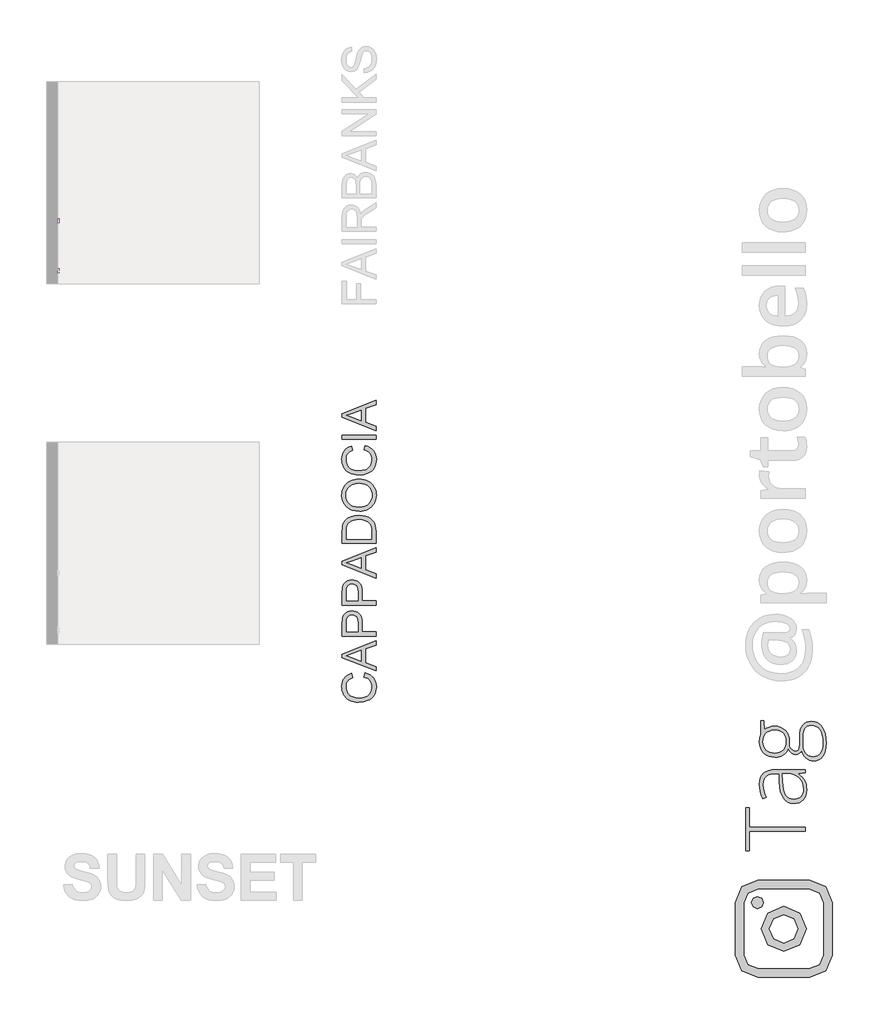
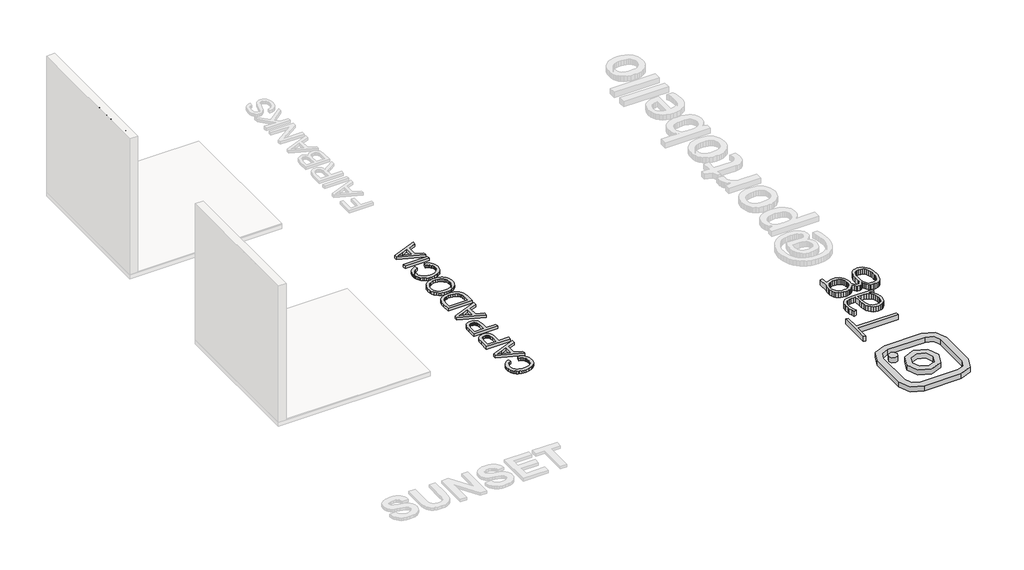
# One storey, part 2 of 7: 5 proxies.
"""IFC4 building model written with IfcOpenShell, lengths in millimetres."""

from ifc_helpers import new_model, si_unit, frame, origin, origin_with_axes, place, context, project, spatial, polyline, outline, extrude, transform, mapped, element, save
from components import generic_models_d67f6705

model = new_model("IFC4")

# Units and contexts
model_context = context("Model", 3, world=origin())
ifc_project = project(units=[si_unit("LENGTHUNIT", "METRE", prefix="MILLI")], contexts=[model_context])

# Site, building, storey
site = spatial("IfcSite", under=ifc_project)
building = spatial("IfcBuilding", under=site)
storey = spatial("IfcBuildingStorey", under=building, Name="PORTOBELLO - SHOWROOM", Elevation=0.0)

# Proxies
placement = place(None, origin())
generic_models_shape = generic_models_d67f6705(model_context)
element("IfcBuildingElementProxy", 1, Name="Blks_Instagram1 : Único 2", ObjectType="Blks_Instagram1 : Único 2", at=placement, inside=storey, context=model_context, shape_type="MappedRepresentation", body=[
    mapped(generic_models_shape, transform((55013.1324814, -13201.2406298, 0.0), x_axis=(-1.0, 0.0, 0.0), y_axis=(0.0, -1.0, 0.0), z_axis=(0.0, 0.0, 1.0))),
])
element("IfcBuildingElementProxy", 2, Name="10mm Arial", ObjectType="10mm Arial", at=placement, inside=storey, context=model_context, shape_type="SweptSolid", body=[
    extrude(outline(polyline([(-4427.1366807, 2478.0448381), (-4427.1366807, 2578.5011483), (-4359.6425973, 2578.5011483), (-4359.6425973, 2565.9441095), (-4414.579642, 2565.9441095), (-4414.579642, 2536.1211424), (-4367.4907466, 2536.1211424), (-4367.4907466, 2523.5641036), (-4414.579642, 2523.5641036), (-4414.579642, 2478.0448381), (-4427.1366807, 2478.0448381)])), frame((45290.81561, 0.0, 0.0), z_axis=(1.0, 0.0, 0.0), x_axis=(0.0, 1.0, 0.0)), (0.0, 0.0, 1.0), 20.0),
    extrude(outline(polyline([(-4296.8574035, 2487.4626172), (-4309.0342975, 2478.9522804), (-4322.4865158, 2476.4752083), (-4332.9803497, 2477.9651303), (-4340.7212001, 2482.4348966), (-4345.4944689, 2489.2223194), (-4347.0855586, 2497.6652112), (-4344.6820629, 2507.598025), (-4338.3667553, 2514.8085122), (-4329.5743756, 2518.9287905), (-4318.709594, 2520.8172514), (-4296.9309799, 2525.1337335), (-4296.8574035, 2527.9296366), (-4300.3154943, 2537.2002629), (-4314.1969082, 2540.8300319), (-4326.9010998, 2538.4142735), (-4332.95889, 2529.842623), (-4345.5159287, 2531.4122529), (-4340.0835379, 2543.674986), (-4329.1451799, 2550.8609477), (-4312.5782274, 2553.3870707), (-4297.3601756, 2551.1552533), (-4288.7639996, 2545.5511842), (-4284.9135014, 2537.0285847), (-4284.3003647, 2526.0411757), (-4284.3003647, 2510.4184537), (-4283.6627026, 2488.6030514), (-4281.161105, 2478.0448381), (-4293.7181438, 2478.0448381), (-4296.8574035, 2487.4626172)]), holes=[polyline([(-4296.8574035, 2512.5766947), (-4317.1154387, 2508.7261965), (-4327.9189066, 2506.6905828), (-4332.8117372, 2503.3796448), (-4334.5285198, 2498.548128), (-4330.7883862, 2491.7545738), (-4319.81324, 2489.032247), (-4307.1090484, 2492.0366167), (-4298.9175427, 2499.3084174), (-4296.9309799, 2509.0205021), (-4296.8574035, 2512.5766947)])]), frame((45290.81561, 0.0, 0.0), z_axis=(1.0, 0.0, 0.0), x_axis=(0.0, 1.0, 0.0)), (0.0, 0.0, 1.0), 20.0),
    extrude(outline(polyline([(45310.81561, -4254.4773977), (45310.81561, -4267.0344364), (45290.81561, -4267.0344364), (45290.81561, -4254.4773977), (45310.81561, -4254.4773977)])), frame((0.0, 0.0, 2565.9441095), z_axis=(0.0, 0.0, 1.0), x_axis=(1.0, 0.0, 0.0)), (0.0, 0.0, 1.0), 12.5570388),
    extrude(outline(polyline([(45310.81561, -4254.4773977), (45310.81561, -4267.0344364), (45290.81561, -4267.0344364), (45290.81561, -4254.4773977), (45310.81561, -4254.4773977)])), frame((0.0, 0.0, 2478.0448381), z_axis=(0.0, 0.0, 1.0), x_axis=(1.0, 0.0, 0.0)), (0.0, 0.0, 1.0), 73.7726028),
    extrude(outline(polyline([(-4235.6418395, 2478.0448381), (-4235.6418395, 2551.8174409), (-4224.6544306, 2551.8174409), (-4224.6544306, 2540.9036083), (-4216.8553323, 2550.9590495), (-4209.0071831, 2553.3870707), (-4196.4010933, 2549.512047), (-4200.5949481, 2538.254858), (-4209.424116, 2540.8300319), (-4216.5242385, 2538.3529598), (-4221.049187, 2531.4858293), (-4223.0848007, 2516.8196004), (-4223.0848007, 2478.0448381), (-4235.6418395, 2478.0448381)])), frame((45290.81561, 0.0, 0.0), z_axis=(1.0, 0.0, 0.0), x_axis=(0.0, 1.0, 0.0)), (0.0, 0.0, 1.0), 20.0),
    extrude(outline(polyline([(-4175.9959054, 2478.0448381), (-4188.5529441, 2478.0448381), (-4188.5529441, 2578.5011483), (-4175.9959054, 2578.5011483), (-4175.9959054, 2541.2469649), (-4167.2035257, 2550.3520443), (-4156.2774304, 2553.3870707), (-4143.6958662, 2550.6524812), (-4133.9347306, 2542.9637475), (-4127.938254, 2531.0075827), (-4125.7677503, 2516.0347855), (-4128.0148961, 2499.2716292), (-4134.7563337, 2486.8004296), (-4144.6492937, 2479.0565136), (-4156.3510068, 2476.4752083), (-4167.5162254, 2479.8045403), (-4175.9959054, 2489.7925365), (-4175.9959054, 2478.0448381)]), holes=[polyline([(-4175.9959054, 2515.4461743), (-4172.5623401, 2497.8859404), (-4165.9833837, 2491.2456704), (-4157.4301273, 2489.032247), (-4150.182852, 2490.6631905), (-4143.9901718, 2495.5560211), (-4139.7411347, 2503.6800818), (-4138.324789, 2515.0047159), (-4139.6828867, 2526.4948969), (-4143.7571798, 2534.5269871), (-4149.756722, 2539.2542707), (-4156.8905671, 2540.8300319), (-4164.1378424, 2539.1990884), (-4170.3305226, 2534.3062579), (-4174.5795597, 2526.32935), (-4175.9959054, 2515.4461743)])]), frame((45290.81561, 0.0, 0.0), z_axis=(1.0, 0.0, 0.0), x_axis=(0.0, 1.0, 0.0)), (0.0, 0.0, 1.0), 20.0),
    extrude(outline(polyline([(-4064.5521863, 2487.4626172), (-4076.7290803, 2478.9522804), (-4090.1812986, 2476.4752083), (-4100.6751325, 2477.9651303), (-4108.4159828, 2482.4348966), (-4113.1892517, 2489.2223194), (-4114.7803414, 2497.6652112), (-4112.3768457, 2507.598025), (-4106.0615381, 2514.8085122), (-4097.2691584, 2518.9287905), (-4086.4043768, 2520.8172514), (-4064.6257627, 2525.1337335), (-4064.5521863, 2527.9296366), (-4068.010277, 2537.2002629), (-4081.891691, 2540.8300319), (-4094.5958826, 2538.4142735), (-4100.6536727, 2529.842623), (-4113.2107115, 2531.4122529), (-4107.7783207, 2543.674986), (-4096.8399627, 2550.8609477), (-4080.2730102, 2553.3870707), (-4065.0549583, 2551.1552533), (-4056.4587824, 2545.5511842), (-4052.6082842, 2537.0285847), (-4051.9951475, 2526.0411757), (-4051.9951475, 2510.4184537), (-4051.3574854, 2488.6030514), (-4048.8558878, 2478.0448381), (-4061.4129266, 2478.0448381), (-4064.5521863, 2487.4626172)]), holes=[polyline([(-4064.5521863, 2512.5766947), (-4084.8102215, 2508.7261965), (-4095.6136894, 2506.6905828), (-4100.5065199, 2503.3796448), (-4102.2233026, 2498.548128), (-4098.483169, 2491.7545738), (-4087.5080228, 2489.032247), (-4074.8038312, 2492.0366167), (-4066.6123255, 2499.3084174), (-4064.6257627, 2509.0205021), (-4064.5521863, 2512.5766947)])]), frame((45290.81561, 0.0, 0.0), z_axis=(1.0, 0.0, 0.0), x_axis=(0.0, 1.0, 0.0)), (0.0, 0.0, 1.0), 20.0),
    extrude(outline(polyline([(-4034.7292192, 2478.0448381), (-4034.7292192, 2551.8174409), (-4022.1721804, 2551.8174409), (-4022.1721804, 2541.516745), (-4012.5704604, 2550.4194893), (-3999.4615986, 2553.3870707), (-3987.6035356, 2550.9958377), (-3979.5101317, 2544.7173184), (-3975.7454726, 2535.4834803), (-3975.0832851, 2523.3433744), (-3975.0832851, 2478.0448381), (-3987.6403238, 2478.0448381), (-3987.6403238, 2521.6511173), (-3989.0873263, 2532.7611535), (-3994.2008861, 2538.6350027), (-4002.8215875, 2540.8300319), (-4016.445484, 2535.9004132), (-4020.7405063, 2528.7573711), (-4022.1721804, 2517.1874824), (-4022.1721804, 2478.0448381), (-4034.7292192, 2478.0448381)])), frame((45290.81561, 0.0, 0.0), z_axis=(1.0, 0.0, 0.0), x_axis=(0.0, 1.0, 0.0)), (0.0, 0.0, 1.0), 20.0),
    extrude(outline(polyline([(-3957.8173567, 2478.0448381), (-3957.8173567, 2578.5011483), (-3945.260318, 2578.5011483), (-3945.260318, 2524.5205968), (-3917.1050826, 2551.8174409), (-3899.7410524, 2551.8174409), (-3928.2396443, 2524.1772403), (-3898.1714226, 2478.0448381), (-3912.8376515, 2478.0448381), (-3937.2404905, 2515.4461743), (-3945.260318, 2507.6716014), (-3945.260318, 2478.0448381), (-3957.8173567, 2478.0448381)])), frame((45290.81561, 0.0, 0.0), z_axis=(1.0, 0.0, 0.0), x_axis=(0.0, 1.0, 0.0)), (0.0, 0.0, 1.0), 20.0),
    extrude(outline(polyline([(-3891.8929032, 2500.0196559), (-3879.3358644, 2501.5892858), (-3873.5233289, 2492.2696086), (-3860.2060007, 2489.032247), (-3847.4037073, 2491.9998285), (-3843.234378, 2498.9650609), (-3847.4282327, 2504.6059182), (-3860.3531535, 2508.1866362), (-3879.262288, 2514.3302656), (-3887.5151075, 2521.5039645), (-3890.3232734, 2531.6329821), (-3888.0669305, 2540.9894475), (-3881.9110384, 2548.1386209), (-3873.9279991, 2551.8542291), (-3863.1245312, 2553.3870707), (-3847.8451657, 2550.9222613), (-3838.133081, 2544.2513345), (-3833.8165989, 2532.9818827), (-3846.3736377, 2531.4122529), (-3851.0947899, 2538.3406971), (-3862.1435125, 2540.8300319), (-3874.160991, 2538.4510617), (-3877.7662346, 2532.9083063), (-3876.2701811, 2529.2540118), (-3871.5858171, 2526.4826341), (-3860.7700864, 2523.8093583), (-3842.3391985, 2517.8987209), (-3833.7798107, 2511.2032686), (-3830.6773392, 2500.2894361), (-3834.319371, 2488.2719576), (-3844.8285333, 2479.5531543), (-3860.377679, 2476.4752083), (-3873.038951, 2477.958999), (-3882.2789204, 2482.4103711), (-3888.4470752, 2489.7802737), (-3891.8929032, 2500.0196559)])), frame((45290.81561, 0.0, 0.0), z_axis=(1.0, 0.0, 0.0), x_axis=(0.0, 1.0, 0.0)), (0.0, 0.0, 1.0), 20.0),
])
element("IfcBuildingElementProxy", 3, Name="10mm Arial Narrow", ObjectType="10mm Arial Narrow", at=placement, inside=storey, context=model_context, shape_type="SweptSolid", body=[
    extrude(outline(polyline([(-3755.0016216, 2478.0448381), (-3755.0016216, 2578.7634419), (-3723.7047369, 2578.7634419), (-3707.4090354, 2576.8851211), (-3695.9360493, 2567.4046779), (-3691.6463709, 2550.3855691), (-3693.4326793, 2538.3097436), (-3698.7916045, 2528.6833498), (-3708.5353933, 2522.3820914), (-3723.4762925, 2520.2816719), (-3745.2546599, 2520.2816719), (-3745.2546599, 2478.0448381), (-3755.0016216, 2478.0448381)]), holes=[polyline([(-3745.2546599, 2531.6531272), (-3722.283305, 2531.6531272), (-3706.4191096, 2536.1839414), (-3701.3933325, 2549.8525322), (-3703.868147, 2560.0183086), (-3709.8457758, 2565.8182584), (-3722.5117494, 2567.3919866), (-3745.2546599, 2567.3919866), (-3745.2546599, 2531.6531272)])]), frame((45290.81561, 0.0, 0.0), z_axis=(1.0, 0.0, 0.0), x_axis=(0.0, 1.0, 0.0)), (0.0, 0.0, 1.0), 20.0),
    extrude(outline(polyline([(-3683.5239028, 2514.5959443), (-3681.5694339, 2531.1867199), (-3675.7060273, 2543.1388047), (-3666.8474606, 2550.3633593), (-3655.9075115, 2552.7715441), (-3645.0944759, 2550.3633593), (-3636.2105265, 2543.1388047), (-3630.2709717, 2531.3770902), (-3628.2911201, 2515.3574257), (-3630.2360705, 2498.1955391), (-3636.0709215, 2486.0530839), (-3644.9199697, 2478.8285294), (-3655.9075115, 2476.4203445), (-3666.7681396, 2478.834875), (-3675.6425705, 2486.0784667), (-3681.5535697, 2498.0368971), (-3683.5239028, 2514.5959443)]), holes=[polyline([(-3673.7769412, 2514.621327), (-3672.4729043, 2502.0695756), (-3668.5607937, 2493.1983175), (-3662.719597, 2487.925059), (-3655.6283016, 2486.1673061), (-3648.9082284, 2487.9409232), (-3643.2161551, 2493.2617743), (-3639.3326001, 2502.1488966), (-3638.0380818, 2514.621327), (-3639.3421186, 2527.1350043), (-3643.2542292, 2535.9935711), (-3649.095426, 2541.2668296), (-3656.1867213, 2543.0245825), (-3662.9543871, 2541.2573111), (-3668.6369418, 2535.955497), (-3672.4919413, 2527.0874118), (-3673.7769412, 2514.621327)])]), frame((45290.81561, 0.0, 0.0), z_axis=(1.0, 0.0, 0.0), x_axis=(0.0, 1.0, 0.0)), (0.0, 0.0, 1.0), 20.0),
    extrude(outline(polyline([(-3556.8134013, 2486.1673061), (-3555.1889077, 2476.4203445), (-3562.5498944, 2476.4203445), (-3570.8246587, 2478.539801), (-3575.1397198, 2484.3397508), (-3576.3073246, 2498.985576), (-3576.3073246, 2541.4000889), (-3584.4297927, 2541.4000889), (-3584.4297927, 2544.6490761), (-3586.0542863, 2539.7755952), (-3593.6183346, 2541.4000889), (-3599.6974943, 2539.0775706), (-3603.568358, 2532.5922876), (-3605.5482096, 2517.184981), (-3605.5482096, 2478.0448381), (-3615.2951712, 2478.0448381), (-3615.2951712, 2551.1470505), (-3605.5482096, 2551.1470505), (-3605.5482096, 2541.4508543), (-3599.3040623, 2550.5378654), (-3592.9076187, 2552.7715441), (-3584.4297927, 2551.1470505), (-3576.3073246, 2551.1470505), (-3576.3073246, 2567.3919866), (-3566.560363, 2575.5144546), (-3566.560363, 2551.1470505), (-3556.8134013, 2551.1470505), (-3556.8134013, 2541.4000889), (-3566.560363, 2541.4000889), (-3566.560363, 2496.7518973), (-3565.6973507, 2488.7563428), (-3561.077697, 2486.1673061), (-3556.8134013, 2486.1673061)])), frame((45290.81561, 0.0, 0.0), z_axis=(1.0, 0.0, 0.0), x_axis=(0.0, 1.0, 0.0)), (0.0, 0.0, 1.0), 20.0),
    extrude(outline(polyline([(-3550.3154269, 2514.5959443), (-3548.360958, 2531.1867199), (-3542.4975514, 2543.1388047), (-3533.6389847, 2550.3633593), (-3522.6990355, 2552.7715441), (-3511.8859999, 2550.3633593), (-3503.0020505, 2543.1388047), (-3497.0624958, 2531.3770902), (-3495.0826442, 2515.3574257), (-3497.0275945, 2498.1955391), (-3502.8624456, 2486.0530839), (-3511.7114938, 2478.8285294), (-3522.6990355, 2476.4203445), (-3533.5596637, 2478.834875), (-3542.4340946, 2486.0784667), (-3548.3450938, 2498.0368971), (-3550.3154269, 2514.5959443)]), holes=[polyline([(-3540.5684652, 2514.621327), (-3539.2644284, 2502.0695756), (-3535.3523178, 2493.1983175), (-3529.511121, 2487.925059), (-3522.4198257, 2486.1673061), (-3515.6997525, 2487.9409232), (-3510.0076792, 2493.2617743), (-3506.1241242, 2502.1488966), (-3504.8296058, 2514.621327), (-3506.1336427, 2527.1350043), (-3510.0457533, 2535.9935711), (-3515.88695, 2541.2668296), (-3522.9782454, 2543.0245825), (-3529.7459111, 2541.2573111), (-3535.4284659, 2535.955497), (-3539.2834654, 2527.0874118), (-3540.5684652, 2514.621327)])]), frame((45290.81561, 0.0, 0.0), z_axis=(1.0, 0.0, 0.0), x_axis=(0.0, 1.0, 0.0)), (0.0, 0.0, 1.0), 20.0),
    extrude(outline(polyline([(-3472.3397337, 2478.0448381), (-3482.0866953, 2478.0448381), (-3482.0866953, 2578.7634419), (-3472.3397337, 2578.7634419), (-3472.3397337, 2543.3545577), (-3464.9406729, 2550.4363345), (-3455.7394396, 2552.7715441), (-3442.8577129, 2548.5707052), (-3433.5803315, 2535.8412748), (-3430.1028998, 2515.154364), (-3432.0351588, 2498.7000205), (-3437.8319358, 2486.4972814), (-3446.2050581, 2478.9395787), (-3455.8663531, 2476.4203445), (-3465.2071914, 2479.0347639), (-3472.3397337, 2486.801874), (-3472.3397337, 2478.0448381)]), holes=[polyline([(-3472.3397337, 2515.154364), (-3470.2583512, 2497.9068107), (-3464.3695619, 2489.1751576), (-3455.9171186, 2486.1673061), (-3449.974391, 2487.9567874), (-3444.7360337, 2493.3252311), (-3439.8498615, 2514.7482406), (-3444.5583547, 2536.1839414), (-3449.8030577, 2541.3144222), (-3456.1201803, 2543.0245825), (-3462.0978091, 2541.2351012), (-3467.3901047, 2535.8666575), (-3472.3397337, 2515.154364)])]), frame((45290.81561, 0.0, 0.0), z_axis=(1.0, 0.0, 0.0), x_axis=(0.0, 1.0, 0.0)), (0.0, 0.0, 1.0), 20.0),
    extrude(outline(polyline([(-3378.1191043, 2500.7877486), (-3368.3721427, 2499.163255), (-3372.071673, 2489.2766884), (-3377.8906599, 2482.1568376), (-3385.5943132, 2477.8544678), (-3394.9478428, 2476.4203445), (-3406.5413968, 2478.834875), (-3415.685519, 2486.0784667), (-3421.6250738, 2497.8846009), (-3423.6049254, 2513.9867592), (-3421.6155553, 2530.6536829), (-3415.647445, 2542.8342121), (-3406.6334091, 2550.2872111), (-3395.5062625, 2552.7715441), (-3384.8233133, 2550.3728778), (-3376.075796, 2543.1768787), (-3370.2409449, 2531.4373741), (-3368.2959945, 2515.4081911), (-3368.3721427, 2512.1592039), (-3413.8579637, 2512.1592039), (-3407.8549522, 2492.716046), (-3401.924916, 2487.8044911), (-3394.8209293, 2486.1673061), (-3384.6424615, 2489.8224168), (-3378.1191043, 2500.7877486)]), holes=[polyline([(-3413.1980132, 2521.9061655), (-3378.1191043, 2521.9061655), (-3382.3834001, 2536.17125), (-3388.2087326, 2541.3112494), (-3395.4301144, 2543.0245825), (-3407.6391991, 2537.3134721), (-3413.1980132, 2521.9061655)])]), frame((45290.81561, 0.0, 0.0), z_axis=(1.0, 0.0, 0.0), x_axis=(0.0, 1.0, 0.0)), (0.0, 0.0, 1.0), 20.0),
    extrude(outline(polyline([(45310.81561, -3345.6292322), (45310.81561, -3355.3761938), (45290.81561, -3355.3761938), (45290.81561, -3345.6292322), (45310.81561, -3345.6292322)])), frame((0.0, 0.0, 2478.0448381), z_axis=(0.0, 0.0, 1.0), x_axis=(1.0, 0.0, 0.0)), (0.0, 0.0, 1.0), 100.7186038),
    extrude(outline(polyline([(45310.81561, -3319.6373344), (45310.81561, -3329.3842961), (45290.81561, -3329.3842961), (45290.81561, -3319.6373344), (45310.81561, -3319.6373344)])), frame((0.0, 0.0, 2478.0448381), z_axis=(0.0, 0.0, 1.0), x_axis=(1.0, 0.0, 0.0)), (0.0, 0.0, 1.0), 100.7186038),
    extrude(outline(polyline([(-3308.2658792, 2514.5959443), (-3306.3114103, 2531.1867199), (-3300.4480037, 2543.1388047), (-3291.5894369, 2550.3633593), (-3280.6494878, 2552.7715441), (-3269.8364522, 2550.3633593), (-3260.9525028, 2543.1388047), (-3255.012948, 2531.3770902), (-3253.0330964, 2515.3574257), (-3254.9780468, 2498.1955391), (-3260.8128979, 2486.0530839), (-3269.6619461, 2478.8285294), (-3280.6494878, 2476.4203445), (-3291.510116, 2478.834875), (-3300.3845469, 2486.0784667), (-3306.2955461, 2498.0368971), (-3308.2658792, 2514.5959443)]), holes=[polyline([(-3298.5189175, 2514.621327), (-3297.2148806, 2502.0695756), (-3293.30277, 2493.1983175), (-3287.4615733, 2487.925059), (-3280.370278, 2486.1673061), (-3273.6502048, 2487.9409232), (-3267.9581315, 2493.2617743), (-3264.0745764, 2502.1488966), (-3262.7800581, 2514.621327), (-3264.084095, 2527.1350043), (-3267.9962055, 2535.9935711), (-3273.8374023, 2541.2668296), (-3280.9286976, 2543.0245825), (-3287.6963634, 2541.2573111), (-3293.3789182, 2535.955497), (-3297.2339177, 2527.0874118), (-3298.5189175, 2514.621327)])]), frame((45290.81561, 0.0, 0.0), z_axis=(1.0, 0.0, 0.0), x_axis=(0.0, 1.0, 0.0)), (0.0, 0.0, 1.0), 20.0),
])
element("IfcBuildingElementProxy", 4, Name="450mm Arial", ObjectType="450mm Arial", at=placement, inside=storey, context=model_context, shape_type="SweptSolid", body=[
    extrude(outline(polyline([(49389.6969357, -9830.2229918), (49404.1878075, -9774.0159739), (49439.1422329, -9785.1379925), (49469.6849013, -9799.9513411), (49495.8158129, -9818.4560197), (49517.5349675, -9840.6520283), (49534.6090842, -9866.0384988), (49546.8048819, -9894.1145629), (49554.1223605, -9924.8802206), (49556.56152, -9958.3354719), (49554.715855, -9992.6106377), (49549.1788599, -10023.5306726), (49539.9505348, -10051.0955767), (49527.0308797, -10075.3053499), (49510.6120084, -10096.4927609), (49490.8860348, -10114.9905783), (49467.8529587, -10130.7988021), (49441.5127803, -10143.9174322), (49383.4669587, -10161.5781822), (49321.3044121, -10167.4650989), (49287.4031822, -10165.8012559), (49255.7387062, -10160.8097269), (49226.3109841, -10152.4905119), (49199.1200158, -10140.843611), (49174.6152106, -10126.1297499), (49153.2459776, -10108.6096547), (49135.0123167, -10088.2833253), (49119.914228, -10065.1507617), (49108.0752132, -10039.9975723), (49099.618774, -10013.6093655), (49094.5449105, -9985.9861411), (49092.8536227, -9957.1278993), (49095.0423481, -9924.9797081), (49101.6085244, -9895.5005269), (49112.5521515, -9868.6903558), (49127.8732295, -9844.5491946), (49147.1669471, -9823.4749935), (49170.0284929, -9805.8657026), (49196.457867, -9791.7213218), (49226.4550694, -9781.0418512), (49239.8481479, -9837.248869), (49198.8592899, -9856.7347004), (49183.1917209, -9869.1534873), (49170.7420586, -9883.3561884), (49161.2564382, -9899.425138), (49154.4809951, -9917.4426709), (49149.0606406, -9959.3234859), (49150.5632452, -9984.5384262), (49155.071059, -10007.5989471), (49162.584082, -10028.5050485), (49173.1023142, -10047.2567306), (49186.1523323, -10063.6172817), (49201.2607128, -10077.34999), (49218.4274558, -10088.4548555), (49237.6525613, -10096.9318783), (49278.7923658, -10107.6765304), (49321.1946327, -10111.2580811), (49373.1202566, -10107.0178544), (49418.0200033, -10094.2971743), (49437.4063472, -10084.6365931), (49454.1785707, -10072.6157563), (49468.3366739, -10058.2346638), (49479.8806568, -10041.4933157), (49495.2360408, -10004.1820654), (49500.3545021, -9963.9342179), (49498.6117552, -9939.4980247), (49493.3835146, -9917.0172759), (49484.6697801, -9896.4919715), (49472.4705519, -9877.9221114), (49456.8407195, -9861.746813), (49437.8351727, -9848.4051936), (49415.4539114, -9837.8972532), (49389.6969357, -9830.2229918)])), origin_with_axes(), (0.0, 0.0, 1.0), 50.0),
    extrude(outline(polyline([(49549.5356427, -9749.0960656), (49099.8794999, -9569.6068582), (49099.8794999, -9521.7430696), (49549.5356427, -9342.2538622), (49549.5356427, -9401.6444807), (49409.0180981, -9453.1309873), (49409.0180981, -9638.3287199), (49549.5356427, -9689.7054472), (49549.5356427, -9749.0960656)]), holes=[polyline([(49352.8110803, -9617.6902055), (49352.8110803, -9473.6597223), (49242.2632932, -9514.1682957), (49156.0865178, -9545.6749639), (49232.602712, -9573.6686935), (49352.8110803, -9617.6902055)])]), origin_with_axes(), (0.0, 0.0, 1.0), 50.0),
    extrude(outline(polyline([(49549.5356427, -9282.2045677), (49099.8794999, -9282.2045677), (49099.8794999, -9115.5595421), (49104.1608939, -9048.3745911), (49112.1610627, -9018.418556), (49125.1836359, -8993.7593736), (49143.8186775, -8973.9030369), (49168.6562513, -8958.3555391), (49197.9536104, -8948.3107302), (49229.968008, -8944.9624606), (49257.5706488, -8947.2232287), (49282.9639804, -8954.0055331), (49306.1480031, -8965.3093736), (49327.1227166, -8981.1347504), (49344.5090183, -9002.8607663), (49356.9278052, -9031.8665241), (49364.3790773, -9068.1520239), (49366.8628347, -9111.7172655), (49366.8628347, -9225.9975499), (49549.5356427, -9225.9975499), (49549.5356427, -9282.2045677)]), holes=[polyline([(49310.6558169, -9225.9975499), (49310.6558169, -9108.4238856), (49305.4961883, -9058.584069), (49299.0466525, -9040.0039171), (49290.0173025, -9025.6502694), (49278.6482805, -9014.9399234), (49265.1797287, -9007.2896762), (49249.6116472, -9002.6995279), (49231.944036, -9001.1694785), (49206.6947897, -9004.778474), (49185.3975994, -9015.6054606), (49169.3698169, -9032.3056414), (49159.9287944, -9053.5342197), (49156.0865178, -9109.7412376), (49156.0865178, -9225.9975499), (49310.6558169, -9225.9975499)])]), origin_with_axes(), (0.0, 0.0, 1.0), 50.0),
    extrude(outline(polyline([(49549.5356427, -8867.6778111), (49099.8794999, -8867.6778111), (49099.8794999, -8701.0327855), (49104.1608939, -8633.8478345), (49112.1610627, -8603.8917993), (49125.1836359, -8579.2326169), (49143.8186775, -8559.3762803), (49168.6562513, -8543.8287824), (49197.9536104, -8533.7839736), (49229.968008, -8530.435704), (49257.5706488, -8532.6964721), (49282.9639804, -8539.4787764), (49306.1480031, -8550.782617), (49327.1227166, -8566.6079938), (49344.5090183, -8588.3340096), (49356.9278052, -8617.3397674), (49364.3790773, -8653.6252672), (49366.8628347, -8697.1905089), (49366.8628347, -8811.4707932), (49549.5356427, -8811.4707932), (49549.5356427, -8867.6778111)]), holes=[polyline([(49310.6558169, -8811.4707932), (49310.6558169, -8693.8971289), (49305.4961883, -8644.0573123), (49299.0466525, -8625.4771604), (49290.0173025, -8611.1235128), (49278.6482805, -8600.4131667), (49265.1797287, -8592.7629196), (49249.6116472, -8588.1727712), (49231.944036, -8586.6427218), (49206.6947897, -8590.2517173), (49185.3975994, -8601.0787039), (49169.3698169, -8617.7788848), (49159.9287944, -8639.0074631), (49156.0865178, -8695.2144809), (49156.0865178, -8811.4707932), (49310.6558169, -8811.4707932)])]), origin_with_axes(), (0.0, 0.0, 1.0), 50.0),
    extrude(outline(polyline([(49549.5356427, -8505.5157957), (49099.8794999, -8326.0265883), (49099.8794999, -8278.1627996), (49549.5356427, -8098.6735922), (49549.5356427, -8158.0642107), (49409.0180981, -8209.5507173), (49409.0180981, -8394.7484499), (49549.5356427, -8446.1251772), (49549.5356427, -8505.5157957)]), holes=[polyline([(49352.8110803, -8374.1099356), (49352.8110803, -8230.0794523), (49242.2632932, -8270.5880257), (49156.0865178, -8302.0946939), (49232.602712, -8330.0884235), (49352.8110803, -8374.1099356)])]), origin_with_axes(), (0.0, 0.0, 1.0), 50.0),
    extrude(outline(polyline([(49549.5356427, -8038.6242978), (49099.8794999, -8038.6242978), (49099.8794999, -7883.506102), (49101.4987451, -7837.1517792), (49106.3564805, -7803.2574105), (49118.8438795, -7767.4144587), (49138.5218247, -7737.1702528), (49172.7729762, -7706.0752571), (49215.3673569, -7683.9272769), (49265.4816219, -7670.6714226), (49322.292426, -7666.2528045), (49370.5541648, -7669.2442913), (49413.0250437, -7678.2187516), (49449.1836111, -7691.8862784), (49478.5084151, -7708.9569645), (49501.6581317, -7728.6074649), (49519.2914369, -7750.0144346), (49532.3688997, -7774.5912825), (49541.8510895, -7803.7514175), (49547.6145044, -7837.5497292), (49549.5356427, -7876.0411074), (49549.5356427, -8038.6242978)]), holes=[polyline([(49493.3286249, -7982.4172799), (49493.3286249, -7882.9572053), (49491.2977073, -7841.8174008), (49485.2049543, -7810.6126257), (49475.407149, -7787.0649591), (49462.261074, -7768.8964797), (49437.9312296, -7749.369481), (49406.4382838, -7734.7002178), (49367.6450125, -7725.5199212), (49321.4141914, -7722.4598223), (49288.782285, -7723.9589963), (49260.1573243, -7728.4565183), (49235.5393091, -7735.9523883), (49214.9282396, -7746.4466063), (49183.8606887, -7773.026927), (49172.9376452, -7788.2622399), (49165.088423, -7804.7943211), (49158.3369941, -7837.1243343), (49156.0865178, -7884.494116), (49156.0865178, -7982.4172799), (49493.3286249, -7982.4172799)])]), origin_with_axes(), (0.0, 0.0, 1.0), 50.0),
    extrude(outline(polyline([(49330.6356553, -7610.0457866), (49277.8935476, -7606.2995669), (49231.2030255, -7595.0609078), (49190.5640892, -7576.3298094), (49155.9767385, -7550.1062715), (49128.3603753, -7517.9615109), (49108.6344016, -7481.4667443), (49096.7988174, -7440.6219717), (49092.8536227, -7395.4271931), (49094.7061489, -7365.176126), (49100.2637276, -7336.4482471), (49109.5263587, -7309.2435564), (49122.4940423, -7283.562054), (49138.7756894, -7260.1241667), (49157.9802113, -7239.6503213), (49180.1076078, -7222.1405179), (49205.1578791, -7207.5947565), (49232.5615448, -7196.1639835), (49261.7491246, -7187.9991457), (49292.7206186, -7183.1002431), (49325.4760267, -7181.4672755), (49358.6636909, -7183.1860082), (49390.0537186, -7188.3422062), (49419.6461097, -7196.9358695), (49447.4408642, -7208.9669981), (49472.7038329, -7224.1508519), (49494.7008665, -7242.2026908), (49513.431965, -7263.1225147), (49528.8971284, -7286.9103236), (49541.0002997, -7312.6295627), (49549.6454221, -7339.343677), (49554.8324955, -7367.0526664), (49556.56152, -7395.7565311), (49554.6506735, -7426.5359112), (49548.918134, -7455.6411565), (49539.3639015, -7483.0722671), (49525.9879761, -7508.8292428), (49509.3083789, -7532.2396853), (49489.8431311, -7552.6311961), (49467.5922328, -7570.0037754), (49442.555684, -7584.357423), (49415.7386516, -7595.5960821), (49388.1463027, -7603.6236957), (49359.7786372, -7608.4402639), (49330.6356553, -7610.0457866)]), holes=[polyline([(49331.1845519, -7553.8387688), (49368.4477738, -7551.029104), (49401.5256587, -7542.6001097), (49430.4182066, -7528.5517858), (49455.1254175, -7508.8841324), (49474.913142, -7484.9762523), (49489.047231, -7458.2072484), (49497.5276843, -7428.5771207), (49500.3545021, -7396.0858691), (49497.5002395, -7363.0388596), (49488.9374516, -7333.0588102), (49474.6661385, -7306.1457209), (49454.6863001, -7282.2995917), (49429.4576374, -7262.7760237), (49399.4398514, -7248.8306179), (49364.6329421, -7240.4633745), (49325.0369093, -7237.6742934), (49275.2794272, -7242.4496943), (49232.273374, -7256.7758971), (49197.1028206, -7280.2823965), (49170.8518379, -7312.5986873), (49154.5084399, -7351.5840725), (49149.0606406, -7395.0978551), (49151.6850527, -7426.4604379), (49159.5582892, -7455.558822), (49172.6803499, -7482.3930074), (49191.0512349, -7506.9629941), (49215.5560402, -7527.4711455), (49247.0798614, -7542.1198251), (49285.6226986, -7550.9090329), (49331.1845519, -7553.8387688)])]), origin_with_axes(), (0.0, 0.0, 1.0), 50.0),
    extrude(outline(polyline([(49389.6969357, -6788.0181505), (49404.1878075, -6731.8111327), (49439.1422329, -6742.9331512), (49469.6849013, -6757.7464998), (49495.8158129, -6776.2511784), (49517.5349675, -6798.4471871), (49534.6090842, -6823.8336575), (49546.8048819, -6851.9097216), (49554.1223605, -6882.6753793), (49556.56152, -6916.1306307), (49554.715855, -6950.4057964), (49549.1788599, -6981.3258313), (49539.9505348, -7008.8907354), (49527.0308797, -7033.1005087), (49510.6120084, -7054.2879197), (49490.8860348, -7072.7857371), (49467.8529587, -7088.5939609), (49441.5127803, -7101.712591), (49383.4669587, -7119.373341), (49321.3044121, -7125.2602577), (49287.4031822, -7123.5964147), (49255.7387062, -7118.6048857), (49226.3109841, -7110.2856707), (49199.1200158, -7098.6387697), (49174.6152106, -7083.9249086), (49153.2459776, -7066.4048134), (49135.0123167, -7046.078484), (49119.914228, -7022.9459205), (49108.0752132, -6997.7927311), (49099.618774, -6971.4045242), (49094.5449105, -6943.7812999), (49092.8536227, -6914.923058), (49095.0423481, -6882.7748669), (49101.6085244, -6853.2956857), (49112.5521515, -6826.4855145), (49127.8732295, -6802.3443533), (49147.1669471, -6781.2701522), (49170.0284929, -6763.6608613), (49196.457867, -6749.5164805), (49226.4550694, -6738.8370099), (49239.8481479, -6795.0440278), (49198.8592899, -6814.5298592), (49183.1917209, -6826.9486461), (49170.7420586, -6841.1513471), (49161.2564382, -6857.2202968), (49154.4809951, -6875.2378296), (49149.0606406, -6917.1186447), (49150.5632452, -6942.3335849), (49155.071059, -6965.3941058), (49162.584082, -6986.3002073), (49173.1023142, -7005.0518894), (49186.1523323, -7021.4124404), (49201.2607128, -7035.1451487), (49218.4274558, -7046.2500142), (49237.6525613, -7054.727037), (49278.7923658, -7065.4716891), (49321.1946327, -7069.0532398), (49373.1202566, -7064.8130131), (49418.0200033, -7052.092333), (49437.4063472, -7042.4317519), (49454.1785707, -7030.410915), (49468.3366739, -7016.0298226), (49479.8806568, -6999.2884745), (49495.2360408, -6961.9772241), (49500.3545021, -6921.7293766), (49498.6117552, -6897.2931835), (49493.3835146, -6874.8124347), (49484.6697801, -6854.2871303), (49472.4705519, -6835.7172702), (49456.8407195, -6819.5419718), (49437.8351727, -6806.2003524), (49415.4539114, -6795.692412), (49389.6969357, -6788.0181505)])), origin_with_axes(), (0.0, 0.0, 1.0), 50.0),
    extrude(outline(polyline([(49549.5356427, -6647.5006059), (49099.8794999, -6647.5006059), (49099.8794999, -6591.2935881), (49549.5356427, -6591.2935881), (49549.5356427, -6647.5006059)])), origin_with_axes(), (0.0, 0.0, 1.0), 50.0),
    extrude(outline(polyline([(49549.5356427, -6531.2442936), (49099.8794999, -6351.7550862), (49099.8794999, -6303.8912976), (49549.5356427, -6124.4020902), (49549.5356427, -6183.7927086), (49409.0180981, -6235.2792152), (49409.0180981, -6420.4769479), (49549.5356427, -6471.8536751), (49549.5356427, -6531.2442936)]), holes=[polyline([(49352.8110803, -6399.8384335), (49352.8110803, -6255.8079503), (49242.2632932, -6296.3165237), (49156.0865178, -6327.8231919), (49232.602712, -6355.8169215), (49352.8110803, -6399.8384335)])]), origin_with_axes(), (0.0, 0.0, 1.0), 50.0),
])
element("IfcBuildingElementProxy", 5, Name="80mm OpenSans Light", ObjectType="80mm OpenSans Light", at=placement, inside=storey, context=model_context, shape_type="SweptSolid", body=[
    extrude(outline(polyline([(55304.8454661, -11839.7446899), (55304.8454661, -11896.2308367), (54551.0558655, -11896.2308367), (54551.0558655, -12154.8652787), (54504.9054818, -12154.8652787), (54504.9054818, -11581.3506145), (54551.0558655, -11581.3506145), (54551.0558655, -11839.7446899), (55304.8454661, -11839.7446899)])), origin_with_axes(), (0.0, 0.0, 1.0), 100.0),
    extrude(outline(polyline([(55304.8454661, -11109.7513809), (55209.1795665, -11123.4522761), (55209.1795665, -11127.7788746), (55237.3550368, -11150.6512571), (55261.0687024, -11173.8391208), (55280.3205633, -11197.3424656), (55295.1106196, -11221.1612916), (55306.0998792, -11246.2270192), (55313.9493504, -11273.471069), (55318.6590331, -11302.8934409), (55320.2289274, -11334.4941349), (55317.3370169, -11376.3780118), (55308.6612856, -11413.3343738), (55294.2017334, -11445.3632208), (55273.9583604, -11472.4645529), (55248.6071974, -11494.0224307), (55218.8242756, -11509.4209149), (55184.609595, -11518.6600054), (55145.9631555, -11521.7397022), (55103.7412631, -11517.1502028), (55066.4919544, -11503.3817045), (55034.2152293, -11480.4342074), (55006.9110879, -11448.3077114), (54985.0151946, -11407.4979727), (54968.9632138, -11358.5007473), (54958.7551456, -11301.3160352), (54954.3909898, -11235.9438364), (54951.0258577, -11121.2889769), (54910.6442719, -11121.2889769), (54870.0223196, -11123.467299), (54834.6884321, -11130.0022654), (54804.6426093, -11140.8938762), (54779.8848514, -11156.1421312), (54760.5353416, -11176.2427866), (54746.7142631, -11201.6915985), (54738.421616, -11232.4885668), (54735.6574003, -11268.6336915), (54738.5417993, -11310.8330495), (54747.1949963, -11353.7835531), (54761.6169912, -11397.4852023), (54781.8077841, -11441.937997), (54734.695934, -11462.3691565), (54714.9257827, -11413.0038697), (54700.804246, -11363.9390412), (54692.331324, -11315.1746709), (54689.5070166, -11266.7107589), (54692.744454, -11220.32752), (54702.4567662, -11180.2088352), (54718.6439532, -11146.3547045), (54741.306015, -11118.7651277), (54770.8185244, -11097.3649905), (54807.5570541, -11082.0791782), (54851.5216042, -11072.9076908), (54902.7121747, -11069.8505283), (55304.8454661, -11069.8505283), (55304.8454661, -11109.7513809)]), holes=[polyline([(55274.0785436, -11331.609736), (55270.5106022, -11285.8499479), (55259.8067778, -11245.1979498), (55241.9670706, -11209.6537415), (55216.9914805, -11179.2173231), (55185.6762217, -11154.820115), (55148.8175087, -11137.3935378), (55106.4153414, -11126.9375915), (55058.4697197, -11123.4522761), (54997.1762414, -11123.4522761), (55001.7432064, -11228.9732055), (55006.648187, -11287.9832014), (55015.1135975, -11337.8592671), (55027.1394381, -11378.6014027), (55042.7257086, -11410.2096082), (55062.5033714, -11433.8706936), (55087.1033888, -11450.7714689), (55116.5257607, -11460.9119341), (55150.7704872, -11464.2920891), (55178.3525524, -11462.1212784), (55202.6896688, -11455.6088464), (55223.7818364, -11444.7547929), (55241.6290551, -11429.5591181), (55255.8257063, -11410.4124175), (55265.9661715, -11387.705287), (55272.0504506, -11361.4377265), (55274.0785436, -11331.609736)])]), origin_with_axes(), (0.0, 0.0, 1.0), 100.0),
    extrude(outline(polyline([(54704.8904779, -10413.6497599), (54743.349131, -10413.6497599), (54751.0408616, -10536.9578164), (54783.1898919, -10515.2947782), (54816.901305, -10499.8211795), (54852.1751009, -10490.5370203), (54889.0112796, -10487.4423006), (54931.6012333, -10491.0027306), (54969.954726, -10501.6840205), (55004.0717577, -10519.4861705), (55033.9523284, -10544.4091805), (55058.2443761, -10575.341355), (55075.5958387, -10611.1709986), (55086.0067163, -10651.8981113), (55089.4770088, -10697.5226931), (55086.1118767, -10754.0088398), (55104.4097827, -10782.4021423), (55125.6521794, -10803.1638058), (55149.0578753, -10815.8731888), (55173.845679, -10820.1096498), (55198.1827954, -10814.7314476), (55207.5120234, -10808.0086947), (55214.9483645, -10798.5968407), (55224.6832111, -10769.7828967), (55227.9281599, -10726.3666829), (55227.9281599, -10622.5283196), (55230.3919174, -10577.1516158), (55237.7831898, -10537.4085038), (55250.1019771, -10503.2989835), (55267.3482794, -10474.823055), (55289.4169361, -10452.371314), (55316.2027871, -10436.3343561), (55347.7058322, -10426.7121814), (55383.9260715, -10423.5047898), (55428.5816756, -10428.2670527), (55467.8440544, -10442.5538414), (55501.7132081, -10466.3651559), (55530.1891366, -10499.7009962), (55552.746038, -10541.8252397), (55568.8581104, -10592.0017637), (55578.5253539, -10650.2305681), (55581.7477684, -10716.5116531), (55578.9910642, -10769.3547438), (55570.7209514, -10815.8731888), (55556.9374303, -10856.0669882), (55537.6405006, -10889.9361418), (55513.416056, -10916.8046188), (55484.8499901, -10935.9963881), (55451.9423027, -10947.5114496), (55414.692994, -10951.3498035), (55384.6621942, -10948.9761835), (55357.3054726, -10941.8553235), (55332.6228292, -10929.9872235), (55310.6142641, -10913.3718836), (55291.5802354, -10892.6853346), (55275.8212014, -10868.6036077), (55263.337162, -10841.1267028), (55254.1281174, -10810.25462), (55240.7276804, -10834.4715531), (55222.6400951, -10853.2802381), (55200.7066445, -10865.3586588), (55175.7686117, -10869.3847991), (55147.7809278, -10864.6225362), (55121.5058558, -10850.3357475), (55096.9433957, -10826.524433), (55074.0935476, -10793.1885927), (55061.3390958, -10817.8186558), (55045.4298327, -10839.5492971), (55026.3657582, -10858.3805165), (55004.1468722, -10874.312314), (54979.4792518, -10886.9841398), (54953.0689736, -10896.0354439), (54924.9160377, -10901.4662263), (54895.0204441, -10903.2764871), (54850.808016, -10899.746103), (54811.1925987, -10889.1549505), (54776.1741923, -10871.5030296), (54745.7527968, -10846.7903404), (54721.145268, -10816.0684867), (54703.5684617, -10780.3890722), (54693.0223779, -10739.7520969), (54689.5070166, -10694.1575609), (54693.3528819, -10642.2984709), (54704.8904779, -10603.5393596), (54704.8904779, -10413.6497599)]), holes=[polyline([(55407.9627297, -10893.9021904), (55437.877102, -10891.0666159), (55463.8028913, -10882.5598924), (55485.7400976, -10868.3820198), (55503.6887209, -10848.5329981), (55517.6487613, -10823.0128274), (55527.6202187, -10791.8215077), (55533.6030932, -10754.959039), (55535.5973847, -10712.4254212), (55533.1674288, -10657.7232452), (55525.877561, -10610.3146926), (55513.7277815, -10570.1997635), (55496.7180901, -10537.3784579), (55474.8484868, -10511.8507758), (55448.1189718, -10493.6167171), (55416.5295449, -10482.6762819), (55380.0802062, -10479.0294702), (55354.1131039, -10481.3129527), (55331.976844, -10488.1634003), (55313.6714265, -10499.5808129), (55299.1968514, -10515.5651906), (55288.2075918, -10536.6573582), (55280.3581206, -10563.3981404), (55275.6484379, -10595.7875373), (55274.0785436, -10633.8255489), (55274.0785436, -10730.933648), (55276.1704841, -10769.1294001), (55282.4463053, -10802.2323853), (55292.9060073, -10830.2426035), (55307.5495902, -10853.1600548), (55326.3770538, -10870.9847392), (55349.3883983, -10883.7166565), (55376.5836236, -10891.355807), (55407.9627297, -10893.9021904)]), polyline([(54894.2993444, -10848.2325399), (54927.7628794, -10845.6260648), (54957.245343, -10837.8066394), (54982.746735, -10824.7742638), (55004.2670555, -10806.5289379), (55021.3556172, -10783.9269678), (55033.5617327, -10757.8246593), (55040.885402, -10728.2220125), (55043.3266251, -10695.1190273), (55040.9004249, -10660.2658729), (55033.6218243, -10629.739317), (55021.4908234, -10603.5393596), (55004.5074221, -10581.6660006), (54982.9270099, -10564.4196984), (54957.0049764, -10552.1009111), (54926.7413214, -10544.7096387), (54892.1360451, -10542.2458812), (54855.4125383, -10544.7847532), (54823.6015235, -10552.4013693), (54796.7030007, -10565.0957294), (54774.7169699, -10582.8678336), (54757.6284082, -10605.1918798), (54745.4222927, -10631.5420664), (54738.0986234, -10661.9183932), (54735.6574003, -10696.3208602), (54738.2788984, -10729.7768838), (54746.1433925, -10759.4771796), (54759.2508826, -10785.4217475), (54777.6013689, -10807.6105876), (54800.6239805, -10825.3826917), (54827.747847, -10838.0770518), (54858.9729683, -10845.6936679), (54894.2993444, -10848.2325399)])]), origin_with_axes(), (0.0, 0.0, 1.0), 100.0),
])

save(model, "model.ifc")
